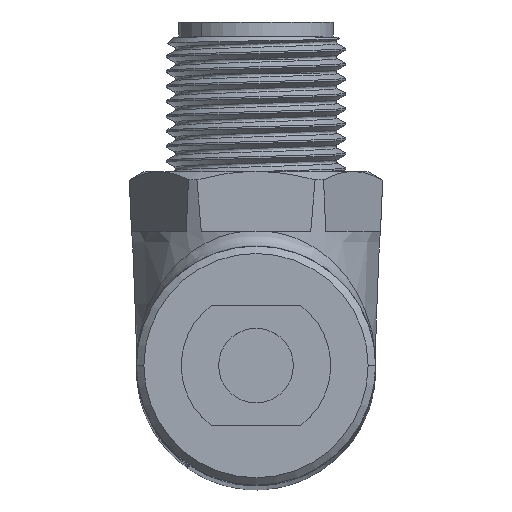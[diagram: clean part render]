
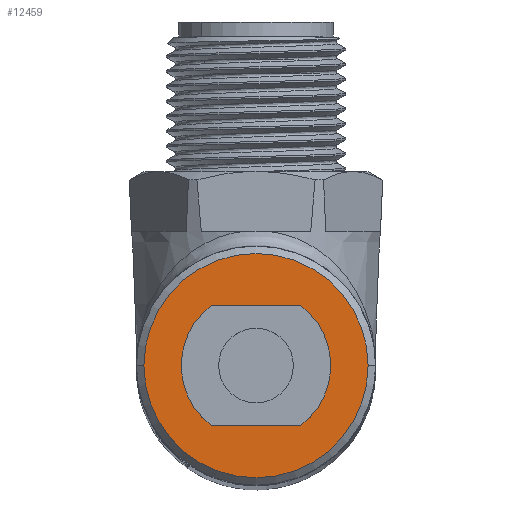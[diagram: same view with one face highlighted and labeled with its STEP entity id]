
A CAD part, top view. The second image highlights one B-rep face of the part: STEP entity #12459.
In plain terms, the highlighted planar face has unit normal (0, 0, 1) as drawn and (0, 1, 0) by its records, which use the part's own axes.
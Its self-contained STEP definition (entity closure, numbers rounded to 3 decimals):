
#538 = PLANE ( 'NONE',  #12570 ) ;
#1453 = CARTESIAN_POINT ( 'NONE',  ( 0., 2., 0. ) ) ;
#2703 = DIRECTION ( 'NONE',  ( 0., 1., 0. ) ) ;
#2818 = AXIS2_PLACEMENT_3D ( 'NONE', #1453, #2703, #4943 ) ;
#3826 = FACE_OUTER_BOUND ( 'NONE', #9408, .T. ) ;
#4271 = CARTESIAN_POINT ( 'NONE',  ( 0., 2., 0. ) ) ;
#4943 = DIRECTION ( 'NONE',  ( 0., 0., 1. ) ) ;
#5981 = VERTEX_POINT ( 'NONE', #6610 ) ;
#6610 = CARTESIAN_POINT ( 'NONE',  ( 0., 2., 7.5 ) ) ;
#6998 = VERTEX_POINT ( 'NONE', #11022 ) ;
#7203 = DIRECTION ( 'NONE',  ( 0., 1., 0. ) ) ;
#7210 = DIRECTION ( 'NONE',  ( 0., -1., 0. ) ) ;
#7273 = CARTESIAN_POINT ( 'NONE',  ( 0., 2., 0. ) ) ;
#7365 = AXIS2_PLACEMENT_3D ( 'NONE', #7273, #7203, #14102 ) ;
#7572 = AXIS2_PLACEMENT_3D ( 'NONE', #4271, #8589, #9777 ) ;
#8159 = VERTEX_POINT ( 'NONE', #14617 ) ;
#8554 = AXIS2_PLACEMENT_3D ( 'NONE', #10550, #7210, #11746 ) ;
#8589 = DIRECTION ( 'NONE',  ( 0., -1., 0. ) ) ;
#9404 = FACE_BOUND ( 'NONE', #13077, .T. ) ;
#9408 = EDGE_LOOP ( 'NONE', ( #11571, #12297 ) ) ;
#9545 = CARTESIAN_POINT ( 'NONE',  ( 3.2, 2., 0. ) ) ;
#9777 = DIRECTION ( 'NONE',  ( 0., 0., -1. ) ) ;
#10550 = CARTESIAN_POINT ( 'NONE',  ( 0., 2., 0. ) ) ;
#10671 = CIRCLE ( 'NONE', #2818, 7.5 ) ;
#10757 = VERTEX_POINT ( 'NONE', #11978 ) ;
#11022 = CARTESIAN_POINT ( 'NONE',  ( 0., 2., -3.2 ) ) ;
#11568 = DIRECTION ( 'NONE',  ( 0., 0., 1. ) ) ;
#11571 = ORIENTED_EDGE ( 'NONE', *, *, #13080, .T. ) ;
#11746 = DIRECTION ( 'NONE',  ( 0., 0., -1. ) ) ;
#11787 = DIRECTION ( 'NONE',  ( 0., 1., 0. ) ) ;
#11874 = CIRCLE ( 'NONE', #7365, 7.5 ) ;
#11967 = ORIENTED_EDGE ( 'NONE', *, *, #14094, .T. ) ;
#11978 = CARTESIAN_POINT ( 'NONE',  ( 0., 2., -7.5 ) ) ;
#12182 = EDGE_CURVE ( 'NONE', #6998, #8159, #13990, .T. ) ;
#12297 = ORIENTED_EDGE ( 'NONE', *, *, #12415, .T. ) ;
#12415 = EDGE_CURVE ( 'NONE', #5981, #10757, #10671, .T. ) ;
#12459 = ADVANCED_FACE ( 'NONE', ( #3826, #9404 ), #538, .T. ) ;
#12570 = AXIS2_PLACEMENT_3D ( 'NONE', #9545, #11787, #11568 ) ;
#13077 = EDGE_LOOP ( 'NONE', ( #14522, #11967 ) ) ;
#13080 = EDGE_CURVE ( 'NONE', #10757, #5981, #11874, .T. ) ;
#13990 = CIRCLE ( 'NONE', #7572, 3.2 ) ;
#14094 = EDGE_CURVE ( 'NONE', #8159, #6998, #14257, .T. ) ;
#14102 = DIRECTION ( 'NONE',  ( 0., 0., 1. ) ) ;
#14257 = CIRCLE ( 'NONE', #8554, 3.2 ) ;
#14522 = ORIENTED_EDGE ( 'NONE', *, *, #12182, .T. ) ;
#14617 = CARTESIAN_POINT ( 'NONE',  ( 0., 2., 3.2 ) ) ;
